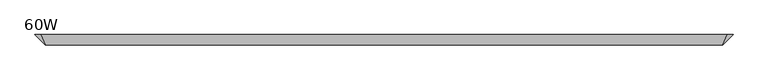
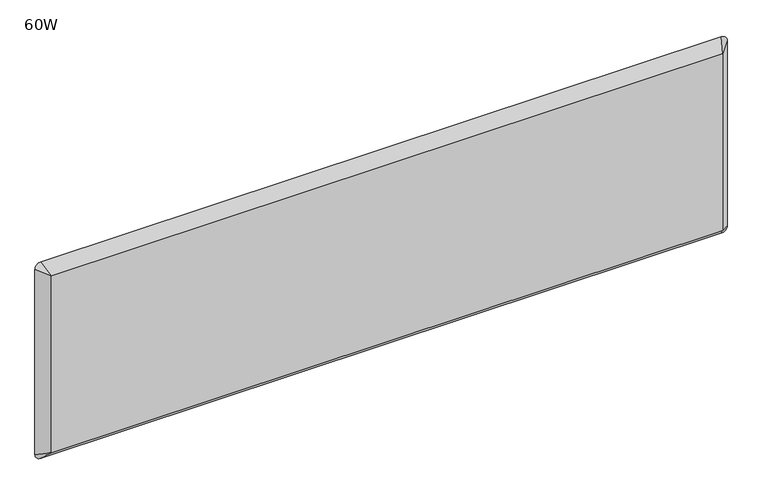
"""IFC4 building model written with IfcOpenShell, lengths in millimetres: furniture geometry, Steelcase - Answer Solution - Tackboards for Use with Wall Channels : 60W."""

from ifc_helpers import new_model, si_unit, frame, origin, place, context, project, spatial, circle_curve, source, transform, mapped, element, save
from ifc_brep_helpers import plane_surface, spline_surface, advanced_brep


def furniture_60w_438cd771(model_context):
    return source(origin(), model_context, "Body", "AdvancedBrep", [
        advanced_brep(
        [(1539.24, -58.549664, 1158.24), (60.96, -58.549664, 1158.24), (60.96, -58.549664, 746.76), (1539.24, -58.549664, 746.76), (1549.4, -36.19754, 1181.1), (1562.1, -36.19754, 1168.4), (1562.1, -36.19754, 736.6), (1549.4, -36.19754, 723.9), (50.8, -36.19754, 723.9), (38.1, -36.19754, 736.6), (38.1, -36.19754, 1168.4), (50.8, -36.19754, 1181.1)],
        [
            (0, 1),
            (1, 2),
            (2, 3),
            (3, 0),
            (4, 5, circle_curve(frame((1549.4, -36.19754, 1168.4), z_axis=(0.0, 1.0, 0.0), x_axis=(-1.0, 0.0, 0.0)), 12.7)),
            (5, 6),
            (6, 7, circle_curve(frame((1549.4, -36.19754, 736.6), z_axis=(0.0, 1.0, 0.0), x_axis=(-1.0, 0.0, 0.0)), 12.7)),
            (7, 8),
            (8, 9, circle_curve(frame((50.8, -36.19754, 736.6), z_axis=(0.0, 1.0, 0.0), x_axis=(-1.0, 0.0, 0.0)), 12.7)),
            (9, 10),
            (10, 11, circle_curve(frame((50.8, -36.19754, 1168.4), z_axis=(0.0, 1.0, 0.0), x_axis=(-1.0, 0.0, 0.0)), 12.7)),
            (11, 4),
            (4, 0),
            (0, 5),
            (3, 6),
            (3, 7),
            (2, 8),
            (2, 9),
            (1, 10),
            (1, 11),
        ],
        [
            plane_surface(frame((800.1, -58.549664, 952.5), z_axis=(0.0, -1.0, 0.0), x_axis=(1.0, 0.0, 0.0))),
            plane_surface(frame((800.1, -36.19754, 952.5), z_axis=(0.0, 1.0, 0.0), x_axis=(1.0, 0.0, 0.0))),
            spline_surface(2, 1, [[(1562.1, -36.19754, 1168.4), (1539.24, -58.549664, 1158.24)], [(1562.1, -36.19754, 1181.1), (1539.24, -58.549664, 1158.24)], [(1549.4, -36.19754, 1181.1), (1539.24, -58.549664, 1158.24)]], [3, 3], [2, 2], [0.0, 1.0], [0.0, 1.0], weights=[[1.0, 1.0], [0.7071067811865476, 0.7071067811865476], [1.0, 1.0]]),
            plane_surface(frame((1562.1, -36.19754, 952.5), z_axis=(0.699119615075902, -0.7150047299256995, 0.0), x_axis=(0.0, 0.0, 1.0))),
            spline_surface(2, 1, [[(1549.4, -36.19754, 723.9), (1539.24, -58.549664, 746.76)], [(1562.1000000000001, -36.19754, 723.8999999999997), (1539.24, -58.549664, 746.76)], [(1562.1, -36.19754, 736.6), (1539.24, -58.549664, 746.76)]], [3, 3], [2, 2], [0.0, 1.0], [0.0, 1.0], weights=[[1.0, 1.0], [0.7071067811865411, 0.7071067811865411], [1.0, 1.0]]),
            plane_surface(frame((800.1, -36.19754, 723.9), z_axis=(0.0, -0.7150047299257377, -0.6991196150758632), x_axis=(1.0, 0.0, 0.0))),
            spline_surface(2, 1, [[(38.1, -36.19754, 736.6), (60.96, -58.549664, 746.76)], [(38.10000000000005, -36.19754, 723.9), (60.96, -58.549664, 746.76)], [(50.8, -36.19754, 723.9), (60.96, -58.549664, 746.76)]], [3, 3], [2, 2], [0.0, 1.0], [0.0, 1.0], weights=[[1.0, 1.0], [0.7071067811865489, 0.7071067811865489], [1.0, 1.0]]),
            plane_surface(frame((38.1, -36.19754, 952.5), z_axis=(-0.699119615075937, -0.7150047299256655, 0.0), x_axis=(0.0, 0.0, -1.0))),
            spline_surface(2, 1, [[(50.8, -36.19754, 1181.1), (60.96, -58.549664, 1158.24)], [(38.10000000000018, -36.19754, 1181.0999999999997), (60.96, -58.549664, 1158.24)], [(38.1, -36.19754, 1168.4), (60.96, -58.549664, 1158.24)]], [3, 3], [2, 2], [0.0, 1.0], [0.0, 1.0], weights=[[1.0, 1.0], [0.7071067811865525, 0.7071067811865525], [1.0, 1.0]]),
            plane_surface(frame((800.1, -36.19754, 1181.1), z_axis=(0.0, -0.7150047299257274, 0.6991196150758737), x_axis=(-1.0, 0.0, 0.0))),
        ],
        [
            (0, [[1, 2, 3, 4]]),
            (1, [[5, 6, 7, 8, 9, 10, 11, 12]]),
            (2, [[-5, 13, 14]]),
            (3, [[-6, -14, -4, 15]]),
            (4, [[-7, -15, 16]]),
            (5, [[-8, -16, -3, 17]]),
            (6, [[-9, -17, 18]]),
            (7, [[-10, -18, -2, 19]]),
            (8, [[-11, -19, 20]]),
            (9, [[-12, -20, -1, -13]]),
        ],
    ),
    ])


if __name__ == "__main__":
    model = new_model("IFC4")
    model_context = context("Model", 3, world=origin())
    ifc_project = project(units=[si_unit("LENGTHUNIT", "METRE", prefix="MILLI")], contexts=[model_context])
    site = spatial("IfcSite", under=ifc_project)
    building = spatial("IfcBuilding", under=site)
    placement = place(None, origin())
    furniture_60w_shape = furniture_60w_438cd771(model_context)
    element("IfcFurniture", 1, ObjectType="Steelcase - Answer Solution - Tackboards for Use with Wall Channels : 60W", at=placement, inside=building, context=model_context, shape_type="MappedRepresentation", body=[
        mapped(furniture_60w_shape, transform((0.0, 0.0, 0.0), x_axis=(1.0, 0.0, 0.0), y_axis=(0.0, 1.0, 0.0), z_axis=(0.0, 0.0, 1.0))),
    ])
    save(model, "model.ifc")
